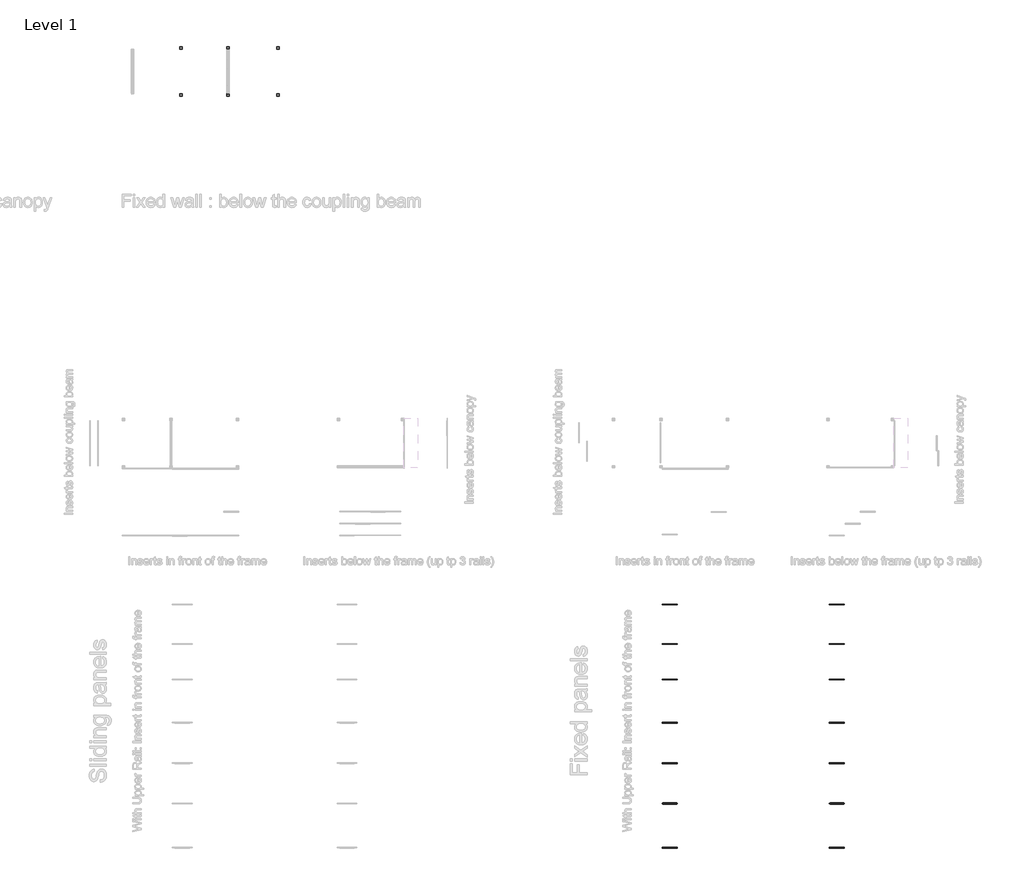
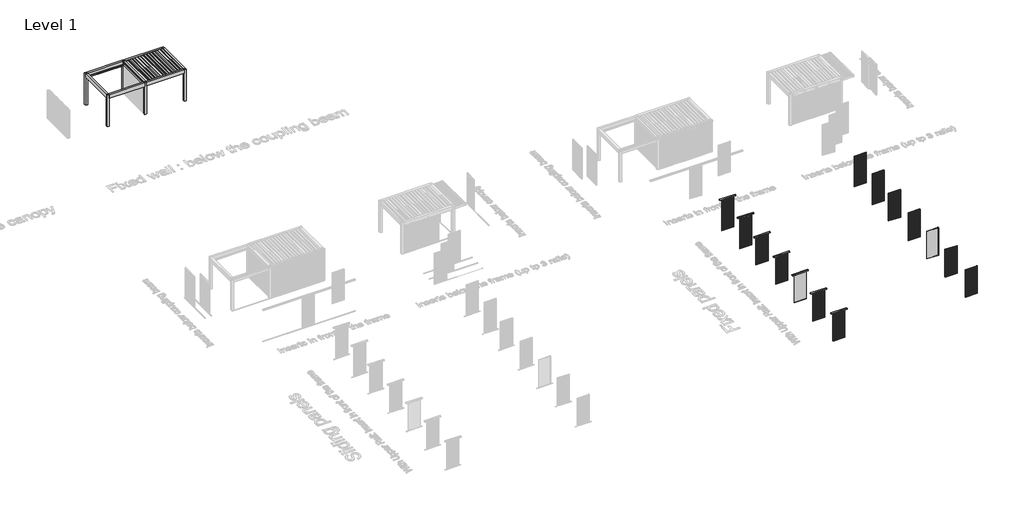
# One storey, part 37 of 80: 15 proxies.
"""IFC4 building model written with IfcOpenShell, lengths in millimetres."""

from ifc_helpers import new_model, si_unit, point, frame, frame_2d, origin, origin_with_axes, place, context, project, spatial, polyline, circle_curve, trimmed, segment, composite_curve, outline, extrude, transform, mapped, element, save
from components import generic_models_514cf80f, generic_models_fa1a9668, generic_models_600909ca, generic_models_8aa5a8c0, generic_models_c88c9adc, generic_models_d49357c6, generic_models_fa0c44fb, generic_models_af797f2e, generic_models_88b5154e, generic_models_7d814d77

model = new_model("IFC4")

# Units and contexts
model_context = context("Model", 3, world=origin())
ifc_project = project(units=[si_unit("LENGTHUNIT", "METRE", prefix="MILLI")], contexts=[model_context])

# Site, building, storey
site = spatial("IfcSite", under=ifc_project)
building = spatial("IfcBuilding", under=site)
storey = spatial("IfcBuildingStorey", under=building, Name="Level 1", Elevation=0.0)

# Proxies
placement = place(None, origin())
element("IfcBuildingElementProxy", 1, Name="Renson_Amani_Patio_Cover : Renson_Amani_Patio_Cover", ObjectType="Renson_Amani_Patio_Cover : Renson_Amani_Patio_Cover", at=placement, inside=storey, context=model_context, shape_type="SweptSolid", body=[
    extrude(outline(polyline([(-18577.8406315, 2535.0), (-18577.8406315, 2322.0), (-18507.8406316, 2322.0), (-18507.8406316, 2250.0), (-18727.8406315, 2250.0), (-18727.8406315, 2535.0), (-18577.8406315, 2535.0)])), frame((419094.5749426, 0.0, 0.0), z_axis=(1.0, 0.0, 0.0), x_axis=(0.0, 1.0, 0.0)), (0.0, 0.0, 1.0), 2700.0),
    extrude(outline(polyline([(-15727.8406315, 2250.0), (-15947.8406314, 2250.0), (-15947.8406314, 2322.0), (-15877.8406315, 2322.0), (-15877.8406315, 2535.0), (-15727.8406315, 2535.0), (-15727.8406315, 2250.0)])), frame((419094.5749426, 0.0, 0.0), z_axis=(1.0, 0.0, 0.0), x_axis=(0.0, 1.0, 0.0)), (0.0, 0.0, 1.0), 2700.0),
    extrude(outline(polyline([(419094.5749426, -18577.8406315), (418944.5749426, -18577.8406315), (418944.5749426, -15877.8406315), (419094.5749426, -15877.8406315), (419094.5749426, -18577.8406315)])), frame((0.0, 0.0, 2250.0), z_axis=(0.0, 0.0, 1.0), x_axis=(1.0, 0.0, 0.0)), (0.0, 0.0, 1.0), 285.0),
    extrude(outline(polyline([(2535.0, 421944.5749426), (2535.0, 421794.5749426), (2504.6904658, 421794.5749426), (2504.2449277, 421789.5749426), (2496.400763, 421789.5749426), (2480.6555802, 421773.8293581), (2480.6555802, 421764.4839749), (2466.6559373, 421768.2352636), (2466.6559373, 421794.5749426), (2250.0, 421794.5749426), (2250.0, 421944.5749426), (2535.0, 421944.5749426)])), frame((0.0, -18577.8406315, 0.0), z_axis=(0.0, 1.0, 0.0), x_axis=(0.0, 0.0, 1.0)), (0.0, 0.0, 1.0), 2700.0),
    extrude(outline(polyline([(2535.0, 424944.5749426), (2535.0, 424794.5749426), (2504.6823598, 424794.5749426), (2504.2449277, 424789.5749426), (2496.400763, 424789.5749426), (2480.6555802, 424773.8293581), (2480.6555802, 424764.4839749), (2466.6559373, 424768.2352636), (2466.6559373, 424794.5749426), (2250.0, 424794.5749426), (2250.0, 424944.5749426), (2535.0, 424944.5749426)])), frame((0.0, -18577.8406315, 0.0), z_axis=(0.0, 1.0, 0.0), x_axis=(0.0, 0.0, 1.0)), (0.0, 0.0, 1.0), 2700.0),
    extrude(outline(polyline([(-18577.8406315, 2535.0), (-18577.8406315, 2322.0), (-18507.8406316, 2322.0), (-18507.8406316, 2250.0), (-18727.8406315, 2250.0), (-18727.8406315, 2535.0), (-18577.8406315, 2535.0)])), frame((421944.5749426, 0.0, 0.0), z_axis=(1.0, 0.0, 0.0), x_axis=(0.0, 1.0, 0.0)), (0.0, 0.0, 1.0), 2850.0),
    extrude(outline(polyline([(-15727.8406315, 2250.0), (-15947.8406314, 2250.0), (-15947.8406314, 2322.0), (-15877.8406315, 2322.0), (-15877.8406315, 2535.0), (-15727.8406315, 2535.0), (-15727.8406315, 2250.0)])), frame((421944.5749426, 0.0, 0.0), z_axis=(1.0, 0.0, 0.0), x_axis=(0.0, 1.0, 0.0)), (0.0, 0.0, 1.0), 2850.0),
    extrude(outline(polyline([(2466.6559373, 421944.5749426), (2466.6559373, 422154.5749426), (2480.6555802, 422158.3262313), (2480.6555802, 421964.9808481), (2496.400763, 421949.5749426), (2504.2449277, 421949.5749426), (2504.6823598, 421944.5749426), (2466.6559373, 421944.5749426)])), frame((0.0, -18577.8406315, 0.0), z_axis=(0.0, 1.0, 0.0), x_axis=(0.0, 0.0, 1.0)), (0.0, 0.0, 1.0), 2700.0),
    extrude(outline(polyline([(419094.5749426, -18577.8406315), (419094.5749426, -18727.8406315), (418944.5749426, -18727.8406315), (418944.5749426, -18577.8406315), (419094.5749426, -18577.8406315)])), origin_with_axes(), (0.0, 0.0, 1.0), 2535.0),
    extrude(outline(polyline([(419094.5749426, -15877.8406315), (418944.5749426, -15877.8406315), (418944.5749426, -15727.8406315), (419094.5749426, -15727.8406315), (419094.5749426, -15877.8406315)])), origin_with_axes(), (0.0, 0.0, 1.0), 2535.0),
    extrude(outline(polyline([(421944.5749426, -15727.8406315), (421944.5749426, -15877.8406315), (421794.5749426, -15877.8406315), (421794.5749426, -15727.8406315), (421944.5749426, -15727.8406315)])), origin_with_axes(), (0.0, 0.0, 1.0), 2535.0),
    extrude(outline(polyline([(421944.5749426, -18577.8406315), (421944.5749426, -18727.8406315), (421794.5749426, -18727.8406315), (421794.5749426, -18577.8406315), (421944.5749426, -18577.8406315)])), origin_with_axes(), (0.0, 0.0, 1.0), 2535.0),
    extrude(outline(polyline([(424944.5749426, -18577.8406315), (424944.5749426, -18727.8406315), (424794.5749426, -18727.8406315), (424794.5749426, -18577.8406315), (424944.5749426, -18577.8406315)])), origin_with_axes(), (0.0, 0.0, 1.0), 2535.0),
    extrude(outline(polyline([(424944.5749426, -15727.8406315), (424944.5749426, -15877.8406315), (424794.5749426, -15877.8406315), (424794.5749426, -15727.8406315), (424944.5749426, -15727.8406315)])), origin_with_axes(), (0.0, 0.0, 1.0), 2535.0),
    extrude(outline(composite_curve([segment(polyline([(2483.35, 422368.1467059), (2511.01198, 422370.5668156), (2512.3970364, 422399.4020661), (2531.8911096, 422395.964735), (2526.6075693, 422285.9676201)]), True, "CONTINUOUS"), segment(trimmed(circle_curve(frame_2d((2511.6248435, 422286.6872921)), 15.0), [point((2526.6075693, 422285.9676201))], [point((2514.2295662, 422271.9151758))], False, "CARTESIAN"), True, "CONTINUOUS"), segment(polyline([(2514.2295662, 422271.9151758), (2495.0, 422268.5244844), (2495.0, 422180.7887084), (2512.0788237, 422177.777251), (2511.3450182, 422162.5002805), (2483.35, 422160.0510338), (2483.35, 422368.1467059)]), True, "CONTINUOUS")], self_intersect=False)), frame((0.0, -18577.8406315, 0.0), z_axis=(0.0, 1.0, 0.0), x_axis=(0.0, 0.0, 1.0)), (0.0, 0.0, 1.0), 2700.0),
    extrude(outline(composite_curve([segment(polyline([(2483.35, 424733.3195824), (2511.01198, 424735.7396921), (2512.3970364, 424764.5749426), (2531.8911096, 424761.1376115), (2526.6075693, 424651.1404966)]), True, "CONTINUOUS"), segment(trimmed(circle_curve(frame_2d((2511.6248435, 424651.8601686)), 15.0), [point((2526.6075693, 424651.1404966))], [point((2514.2295662, 424637.0880523))], False, "CARTESIAN"), True, "CONTINUOUS"), segment(polyline([(2514.2295662, 424637.0880523), (2495.0, 424633.6973609), (2495.0, 424545.9615849), (2512.0788237, 424542.9501275), (2511.3450182, 424527.673157), (2483.35, 424525.2239103), (2483.35, 424733.3195824)]), True, "CONTINUOUS")], self_intersect=False)), frame((0.0, -18577.8406315, 0.0), z_axis=(0.0, 1.0, 0.0), x_axis=(0.0, 0.0, 1.0)), (0.0, 0.0, 1.0), 2700.0),
    extrude(outline(composite_curve([segment(polyline([(2483.35, 422583.162422), (2511.01198, 422585.5825316), (2512.3970364, 422614.4177821), (2531.8911096, 422610.980451), (2526.6075693, 422500.9833362)]), True, "CONTINUOUS"), segment(trimmed(circle_curve(frame_2d((2511.6248435, 422501.7030081)), 15.0), [point((2526.6075693, 422500.9833362))], [point((2514.2295662, 422486.9308918))], False, "CARTESIAN"), True, "CONTINUOUS"), segment(polyline([(2514.2295662, 422486.9308918), (2495.0, 422483.5402005), (2495.0, 422395.8044244), (2512.0788237, 422392.792967), (2511.3450182, 422377.5159965), (2483.35, 422375.0667498), (2483.35, 422583.162422)]), True, "CONTINUOUS")], self_intersect=False)), frame((0.0, -18577.8406315, 0.0), z_axis=(0.0, 1.0, 0.0), x_axis=(0.0, 0.0, 1.0)), (0.0, 0.0, 1.0), 2700.0),
    extrude(outline(composite_curve([segment(polyline([(2483.35, 422798.178138), (2511.01198, 422800.5982477), (2512.3970364, 422829.4334981), (2531.8911096, 422825.9961671), (2526.6075693, 422715.9990522)]), True, "CONTINUOUS"), segment(trimmed(circle_curve(frame_2d((2511.6248435, 422716.7187241)), 15.0), [point((2526.6075693, 422715.9990522))], [point((2514.2295662, 422701.9466079))], False, "CARTESIAN"), True, "CONTINUOUS"), segment(polyline([(2514.2295662, 422701.9466079), (2495.0, 422698.5559165), (2495.0, 422610.8201405), (2512.0788237, 422607.8086831), (2511.3450182, 422592.5317126), (2483.35, 422590.0824659), (2483.35, 422798.178138)]), True, "CONTINUOUS")], self_intersect=False)), frame((0.0, -18577.8406315, 0.0), z_axis=(0.0, 1.0, 0.0), x_axis=(0.0, 0.0, 1.0)), (0.0, 0.0, 1.0), 2700.0),
    extrude(outline(composite_curve([segment(polyline([(2483.35, 423013.1938541), (2511.01198, 423015.6139637), (2512.3970364, 423044.4492142), (2531.8911096, 423041.0118831), (2526.6075693, 422931.0147683)]), True, "CONTINUOUS"), segment(trimmed(circle_curve(frame_2d((2511.6248435, 422931.7344402)), 15.0), [point((2526.6075693, 422931.0147683))], [point((2514.2295662, 422916.9623239))], False, "CARTESIAN"), True, "CONTINUOUS"), segment(polyline([(2514.2295662, 422916.9623239), (2495.0, 422913.5716326), (2495.0, 422825.8358565), (2512.0788237, 422822.8243991), (2511.3450182, 422807.5474286), (2483.35, 422805.0981819), (2483.35, 423013.1938541)]), True, "CONTINUOUS")], self_intersect=False)), frame((0.0, -18577.8406315, 0.0), z_axis=(0.0, 1.0, 0.0), x_axis=(0.0, 0.0, 1.0)), (0.0, 0.0, 1.0), 2700.0),
    extrude(outline(composite_curve([segment(polyline([(2483.35, 423228.2095701), (2511.01198, 423230.6296798), (2512.3970364, 423259.4649302), (2531.8911096, 423256.0275992), (2526.6075693, 423146.0304843)]), True, "CONTINUOUS"), segment(trimmed(circle_curve(frame_2d((2511.6248435, 423146.7501562)), 15.0), [point((2526.6075693, 423146.0304843))], [point((2514.2295662, 423131.9780399))], False, "CARTESIAN"), True, "CONTINUOUS"), segment(polyline([(2514.2295662, 423131.9780399), (2495.0, 423128.5873486), (2495.0, 423040.8515726), (2512.0788237, 423037.8401152), (2511.3450182, 423022.5631447), (2483.35, 423020.113898), (2483.35, 423228.2095701)]), True, "CONTINUOUS")], self_intersect=False)), frame((0.0, -18577.8406315, 0.0), z_axis=(0.0, 1.0, 0.0), x_axis=(0.0, 0.0, 1.0)), (0.0, 0.0, 1.0), 2700.0),
    extrude(outline(composite_curve([segment(polyline([(2483.35, 423443.2252862), (2511.01198, 423445.6453958), (2512.3970364, 423474.4806463), (2531.8911096, 423471.0433152), (2526.6075693, 423361.0462004)]), True, "CONTINUOUS"), segment(trimmed(circle_curve(frame_2d((2511.6248435, 423361.7658723)), 15.0), [point((2526.6075693, 423361.0462004))], [point((2514.2295662, 423346.993756))], False, "CARTESIAN"), True, "CONTINUOUS"), segment(polyline([(2514.2295662, 423346.993756), (2495.0, 423343.6030646), (2495.0, 423255.8672886), (2512.0788237, 423252.8558312), (2511.3450182, 423237.5788607), (2483.35, 423235.129614), (2483.35, 423443.2252862)]), True, "CONTINUOUS")], self_intersect=False)), frame((0.0, -18577.8406315, 0.0), z_axis=(0.0, 1.0, 0.0), x_axis=(0.0, 0.0, 1.0)), (0.0, 0.0, 1.0), 2700.0),
    extrude(outline(composite_curve([segment(polyline([(2483.35, 423658.2410022), (2511.01198, 423660.6611119), (2512.3970364, 423689.4963623), (2531.8911096, 423686.0590313), (2526.6075693, 423576.0619164)]), True, "CONTINUOUS"), segment(trimmed(circle_curve(frame_2d((2511.6248435, 423576.7815883)), 15.0), [point((2526.6075693, 423576.0619164))], [point((2514.2295662, 423562.009472))], False, "CARTESIAN"), True, "CONTINUOUS"), segment(polyline([(2514.2295662, 423562.009472), (2495.0, 423558.6187807), (2495.0, 423470.8830047), (2512.0788237, 423467.8715473), (2511.3450182, 423452.5945768), (2483.35, 423450.1453301), (2483.35, 423658.2410022)]), True, "CONTINUOUS")], self_intersect=False)), frame((0.0, -18577.8406315, 0.0), z_axis=(0.0, 1.0, 0.0), x_axis=(0.0, 0.0, 1.0)), (0.0, 0.0, 1.0), 2700.0),
    extrude(outline(composite_curve([segment(polyline([(2483.35, 423873.2567183), (2511.01198, 423875.6768279), (2512.3970364, 423904.5120784), (2531.8911096, 423901.0747473), (2526.6075693, 423791.0776325)]), True, "CONTINUOUS"), segment(trimmed(circle_curve(frame_2d((2511.6248435, 423791.7973044)), 15.0), [point((2526.6075693, 423791.0776325))], [point((2514.2295662, 423777.0251881))], False, "CARTESIAN"), True, "CONTINUOUS"), segment(polyline([(2514.2295662, 423777.0251881), (2495.0, 423773.6344967), (2495.0, 423685.8987207), (2512.0788237, 423682.8872633), (2511.3450182, 423667.6102928), (2483.35, 423665.1610461), (2483.35, 423873.2567183)]), True, "CONTINUOUS")], self_intersect=False)), frame((0.0, -18577.8406315, 0.0), z_axis=(0.0, 1.0, 0.0), x_axis=(0.0, 0.0, 1.0)), (0.0, 0.0, 1.0), 2700.0),
    extrude(outline(composite_curve([segment(polyline([(2483.35, 424088.2724343), (2511.01198, 424090.692544), (2512.3970364, 424119.5277944), (2531.8911096, 424116.0904633), (2526.6075693, 424006.0933485)]), True, "CONTINUOUS"), segment(trimmed(circle_curve(frame_2d((2511.6248435, 424006.8130204)), 15.0), [point((2526.6075693, 424006.0933485))], [point((2514.2295662, 423992.0409041))], False, "CARTESIAN"), True, "CONTINUOUS"), segment(polyline([(2514.2295662, 423992.0409041), (2495.0, 423988.6502128), (2495.0, 423900.9144368), (2512.0788237, 423897.9029793), (2511.3450182, 423882.6260089), (2483.35, 423880.1767621), (2483.35, 424088.2724343)]), True, "CONTINUOUS")], self_intersect=False)), frame((0.0, -18577.8406315, 0.0), z_axis=(0.0, 1.0, 0.0), x_axis=(0.0, 0.0, 1.0)), (0.0, 0.0, 1.0), 2700.0),
    extrude(outline(composite_curve([segment(polyline([(2483.35, 424303.2881504), (2511.01198, 424305.70826), (2512.3970364, 424334.5435105), (2531.8911096, 424331.1061794), (2526.6075693, 424221.1090645)]), True, "CONTINUOUS"), segment(trimmed(circle_curve(frame_2d((2511.6248435, 424221.8287365)), 15.0), [point((2526.6075693, 424221.1090645))], [point((2514.2295662, 424207.0566202))], False, "CARTESIAN"), True, "CONTINUOUS"), segment(polyline([(2514.2295662, 424207.0566202), (2495.0, 424203.6659288), (2495.0, 424115.9301528), (2512.0788237, 424112.9186954), (2511.3450182, 424097.6417249), (2483.35, 424095.1924782), (2483.35, 424303.2881504)]), True, "CONTINUOUS")], self_intersect=False)), frame((0.0, -18577.8406315, 0.0), z_axis=(0.0, 1.0, 0.0), x_axis=(0.0, 0.0, 1.0)), (0.0, 0.0, 1.0), 2700.0),
    extrude(outline(composite_curve([segment(polyline([(2483.35, 424518.3038664), (2511.01198, 424520.7239761), (2512.3970364, 424549.5592265), (2531.8911096, 424546.1218954), (2526.6075693, 424436.1247806)]), True, "CONTINUOUS"), segment(trimmed(circle_curve(frame_2d((2511.6248435, 424436.8444525)), 15.0), [point((2526.6075693, 424436.1247806))], [point((2514.2295662, 424422.0723362))], False, "CARTESIAN"), True, "CONTINUOUS"), segment(polyline([(2514.2295662, 424422.0723362), (2495.0, 424418.6816449), (2495.0, 424330.9458688), (2512.0788237, 424327.9344114), (2511.3450182, 424312.657441), (2483.35, 424310.2081942), (2483.35, 424518.3038664)]), True, "CONTINUOUS")], self_intersect=False)), frame((0.0, -18577.8406315, 0.0), z_axis=(0.0, 1.0, 0.0), x_axis=(0.0, 0.0, 1.0)), (0.0, 0.0, 1.0), 2700.0),
])
generic_models_shape = generic_models_514cf80f(model_context)
element("IfcBuildingElementProxy", 2, Name="Renson_Amani_Loggia_Paro_Aluminium_Fix : Renson_Amani_Loggia_Paro_Aluminium_Fix", ObjectType="Renson_Amani_Loggia_Paro_Aluminium_Fix : Renson_Amani_Loggia_Paro_Aluminium_Fix", at=placement, inside=storey, context=model_context, shape_type="MappedRepresentation", body=[
    mapped(generic_models_shape, transform((448410.5749426, -49269.3676714, 0.0), x_axis=(1.0, 0.0, 0.0), y_axis=(0.0, 1.0, 0.0), z_axis=(0.0, 0.0, 1.0))),
])
generic_models_2_shape = generic_models_fa1a9668(model_context)
element("IfcBuildingElementProxy", 3, Name="Renson_Amani_Loggia_Paro_Aluminium_Fix : Renson_Amani_Loggia_Paro_Aluminium_Fix", ObjectType="Renson_Amani_Loggia_Paro_Aluminium_Fix : Renson_Amani_Loggia_Paro_Aluminium_Fix", at=placement, inside=storey, context=model_context, shape_type="MappedRepresentation", body=[
    mapped(generic_models_2_shape, transform((458460.5749426, -49269.3676714, 0.0), x_axis=(1.0, 0.0, 0.0), y_axis=(0.0, 1.0, 0.0), z_axis=(0.0, 0.0, 1.0))),
])
element("IfcBuildingElementProxy", 4, Name="Renson_Amani_Loggia_Paro_Wood_Fix : Renson_Amani_Loggia_Paro_Wood_Fix", ObjectType="Renson_Amani_Loggia_Paro_Wood_Fix : Renson_Amani_Loggia_Paro_Wood_Fix", at=placement, inside=storey, context=model_context, shape_type="MappedRepresentation", body=[
    mapped(generic_models_shape, transform((448410.5749426, -51632.8726434, 0.0), x_axis=(1.0, 0.0, 0.0), y_axis=(0.0, 1.0, 0.0), z_axis=(0.0, 0.0, 1.0))),
])
element("IfcBuildingElementProxy", 5, Name="Renson_Amani_Loggia_Paro_Wood_Fix : Renson_Amani_Loggia_Paro_Wood_Fix", ObjectType="Renson_Amani_Loggia_Paro_Wood_Fix : Renson_Amani_Loggia_Paro_Wood_Fix", at=placement, inside=storey, context=model_context, shape_type="MappedRepresentation", body=[
    mapped(generic_models_2_shape, transform((458460.5749426, -51632.8726434, 0.0), x_axis=(1.0, 0.0, 0.0), y_axis=(0.0, 1.0, 0.0), z_axis=(0.0, 0.0, 1.0))),
])
generic_models_3_shape = generic_models_600909ca(model_context)
element("IfcBuildingElementProxy", 6, Name="Renson_Amani_Loggia_Plano_Fix : Renson_Amani_Loggia_Plano_Fix", ObjectType="Renson_Amani_Loggia_Plano_Fix : Renson_Amani_Loggia_Plano_Fix", at=placement, inside=storey, context=model_context, shape_type="MappedRepresentation", body=[
    mapped(generic_models_3_shape, transform((448410.5749426, -53778.182137, 0.0), x_axis=(1.0, 0.0, 0.0), y_axis=(0.0, 1.0, 0.0), z_axis=(0.0, 0.0, 1.0))),
])
generic_models_4_shape = generic_models_8aa5a8c0(model_context)
element("IfcBuildingElementProxy", 7, Name="Renson_Amani_Loggia_Plano_Fix : Renson_Amani_Loggia_Plano_Fix", ObjectType="Renson_Amani_Loggia_Plano_Fix : Renson_Amani_Loggia_Plano_Fix", at=placement, inside=storey, context=model_context, shape_type="MappedRepresentation", body=[
    mapped(generic_models_4_shape, transform((458460.5749426, -53778.182137, 0.0), x_axis=(1.0, 0.0, 0.0), y_axis=(0.0, 1.0, 0.0), z_axis=(0.0, 0.0, 1.0))),
])
generic_models_5_shape = generic_models_c88c9adc(model_context)
element("IfcBuildingElementProxy", 8, Name="Renson_Amani_Loggia_Linea_Fix : Renson_Amani_Loggia_Linea_Fix", ObjectType="Renson_Amani_Loggia_Linea_Fix : Renson_Amani_Loggia_Linea_Fix", at=placement, inside=storey, context=model_context, shape_type="MappedRepresentation", body=[
    mapped(generic_models_5_shape, transform((448410.5749426, -56367.7318611, 0.0), x_axis=(1.0, 0.0, 0.0), y_axis=(0.0, 1.0, 0.0), z_axis=(0.0, 0.0, 1.0))),
])
generic_models_6_shape = generic_models_d49357c6(model_context)
element("IfcBuildingElementProxy", 9, Name="Renson_Amani_Loggia_Linea_Fix : Renson_Amani_Loggia_Linea_Fix", ObjectType="Renson_Amani_Loggia_Linea_Fix : Renson_Amani_Loggia_Linea_Fix", at=placement, inside=storey, context=model_context, shape_type="MappedRepresentation", body=[
    mapped(generic_models_6_shape, transform((458460.5749426, -56367.7318611, 0.0), x_axis=(1.0, 0.0, 0.0), y_axis=(0.0, 1.0, 0.0), z_axis=(0.0, 0.0, 1.0))),
])
generic_models_7_shape = generic_models_fa0c44fb(model_context)
element("IfcBuildingElementProxy", 10, Name="Renson_Amani_Loggia_Canvas_Fix : Renson_Amani_Loggia_Canvas_Fix", ObjectType="Renson_Amani_Loggia_Canvas_Fix : Renson_Amani_Loggia_Canvas_Fix", at=placement, inside=storey, context=model_context, shape_type="MappedRepresentation", body=[
    mapped(generic_models_7_shape, transform((448410.5749426, -58798.6117458, 0.0), x_axis=(1.0, 0.0, 0.0), y_axis=(0.0, 1.0, 0.0), z_axis=(0.0, 0.0, 1.0))),
])
generic_models_8_shape = generic_models_af797f2e(model_context)
element("IfcBuildingElementProxy", 11, Name="Renson_Amani_Loggia_Canvas_Fix : Renson_Amani_Loggia_Canvas_Fix", ObjectType="Renson_Amani_Loggia_Canvas_Fix : Renson_Amani_Loggia_Canvas_Fix", at=placement, inside=storey, context=model_context, shape_type="MappedRepresentation", body=[
    mapped(generic_models_8_shape, transform((458460.5749426, -58798.6117458, 0.0), x_axis=(1.0, 0.0, 0.0), y_axis=(0.0, 1.0, 0.0), z_axis=(0.0, 0.0, 1.0))),
])
generic_models_9_shape = generic_models_88b5154e(model_context)
element("IfcBuildingElementProxy", 12, Name="Renson_Amani_Loggia_Paro_Privacy_Aluminium_Fix : Renson_Amani_Loggia_Paro_Privacy_Aluminium_Fix", ObjectType="Renson_Amani_Loggia_Paro_Privacy_Aluminium_Fix : Renson_Amani_Loggia_Paro_Privacy_Aluminium_Fix", at=placement, inside=storey, context=model_context, shape_type="MappedRepresentation", body=[
    mapped(generic_models_9_shape, transform((448410.5749426, -61223.4916306, 0.0), x_axis=(1.0, 0.0, 0.0), y_axis=(0.0, 1.0, 0.0), z_axis=(0.0, 0.0, 1.0))),
])
generic_models_10_shape = generic_models_7d814d77(model_context)
element("IfcBuildingElementProxy", 13, Name="Renson_Amani_Loggia_Paro_Privacy_Aluminium_Fix : Renson_Amani_Loggia_Paro_Privacy_Aluminium_Fix", ObjectType="Renson_Amani_Loggia_Paro_Privacy_Aluminium_Fix : Renson_Amani_Loggia_Paro_Privacy_Aluminium_Fix", at=placement, inside=storey, context=model_context, shape_type="MappedRepresentation", body=[
    mapped(generic_models_10_shape, transform((458460.5749426, -61223.4916306, 0.0), x_axis=(1.0, 0.0, 0.0), y_axis=(0.0, 1.0, 0.0), z_axis=(0.0, 0.0, 1.0))),
])
element("IfcBuildingElementProxy", 14, Name="Renson_Amani_Loggia_Paro_Privacy_Wood_Fix : Renson_Amani_Loggia_Paro_Privacy_Wood_Fix", ObjectType="Renson_Amani_Loggia_Paro_Privacy_Wood_Fix : Renson_Amani_Loggia_Paro_Privacy_Wood_Fix", at=placement, inside=storey, context=model_context, shape_type="MappedRepresentation", body=[
    mapped(generic_models_9_shape, transform((448410.5749426, -63882.1776025, 0.0), x_axis=(1.0, 0.0, 0.0), y_axis=(0.0, 1.0, 0.0), z_axis=(0.0, 0.0, 1.0))),
])
element("IfcBuildingElementProxy", 15, Name="Renson_Amani_Loggia_Paro_Privacy_Wood_Fix : Renson_Amani_Loggia_Paro_Privacy_Wood_Fix", ObjectType="Renson_Amani_Loggia_Paro_Privacy_Wood_Fix : Renson_Amani_Loggia_Paro_Privacy_Wood_Fix", at=placement, inside=storey, context=model_context, shape_type="MappedRepresentation", body=[
    mapped(generic_models_10_shape, transform((458460.5749426, -63882.1776025, 0.0), x_axis=(1.0, 0.0, 0.0), y_axis=(0.0, 1.0, 0.0), z_axis=(0.0, 0.0, 1.0))),
])

save(model, "model.ifc")
